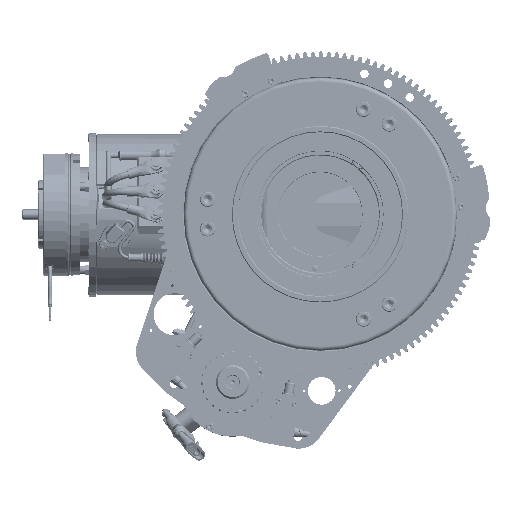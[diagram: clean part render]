
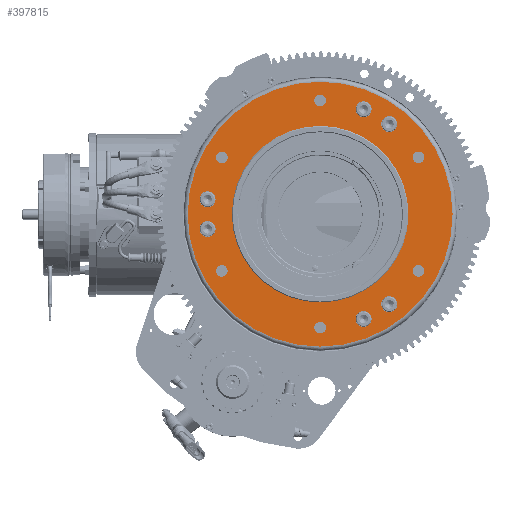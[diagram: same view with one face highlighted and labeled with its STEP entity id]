
A CAD part, top view. The second image highlights one B-rep face of the part: STEP entity #397815.
In plain terms, the highlighted planar face has unit normal (0, 0, 1).
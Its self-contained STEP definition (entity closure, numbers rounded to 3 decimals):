
#7699=FACE_BOUND('',#61770,.T.);
#7700=FACE_BOUND('',#61771,.T.);
#7701=FACE_BOUND('',#61772,.T.);
#7702=FACE_BOUND('',#61773,.T.);
#7703=FACE_BOUND('',#61774,.T.);
#7704=FACE_BOUND('',#61775,.T.);
#7705=FACE_BOUND('',#61776,.T.);
#7706=FACE_BOUND('',#61777,.T.);
#7707=FACE_BOUND('',#61778,.T.);
#7708=FACE_BOUND('',#61779,.T.);
#7709=FACE_BOUND('',#61780,.T.);
#7710=FACE_BOUND('',#61781,.T.);
#7711=FACE_BOUND('',#61782,.T.);
#19326=PLANE('',#430068);
#38778=FACE_OUTER_BOUND('',#61769,.T.);
#61769=EDGE_LOOP('',(#322013));
#61770=EDGE_LOOP('',(#322014));
#61771=EDGE_LOOP('',(#322015));
#61772=EDGE_LOOP('',(#322016));
#61773=EDGE_LOOP('',(#322017));
#61774=EDGE_LOOP('',(#322018));
#61775=EDGE_LOOP('',(#322019));
#61776=EDGE_LOOP('',(#322020));
#61777=EDGE_LOOP('',(#322021));
#61778=EDGE_LOOP('',(#322022));
#61779=EDGE_LOOP('',(#322023));
#61780=EDGE_LOOP('',(#322024));
#61781=EDGE_LOOP('',(#322025));
#61782=EDGE_LOOP('',(#322026));
#81715=CIRCLE('',#430069,157.5);
#81716=CIRCLE('',#430070,6.918);
#81717=CIRCLE('',#430071,6.918);
#81718=CIRCLE('',#430072,6.918);
#81719=CIRCLE('',#430073,6.918);
#81720=CIRCLE('',#430074,6.918);
#81721=CIRCLE('',#430075,6.918);
#81722=CIRCLE('',#430076,9.5);
#81723=CIRCLE('',#430077,9.5);
#81724=CIRCLE('',#430078,9.5);
#81725=CIRCLE('',#430079,9.5);
#81726=CIRCLE('',#430080,9.5);
#81727=CIRCLE('',#430081,9.5);
#81728=CIRCLE('',#430082,105.);
#183456=VERTEX_POINT('',#718199);
#183457=VERTEX_POINT('',#718201);
#183458=VERTEX_POINT('',#718203);
#183459=VERTEX_POINT('',#718205);
#183460=VERTEX_POINT('',#718207);
#183461=VERTEX_POINT('',#718209);
#183462=VERTEX_POINT('',#718211);
#183463=VERTEX_POINT('',#718213);
#183464=VERTEX_POINT('',#718215);
#183465=VERTEX_POINT('',#718217);
#183466=VERTEX_POINT('',#718219);
#183467=VERTEX_POINT('',#718221);
#183468=VERTEX_POINT('',#718223);
#183469=VERTEX_POINT('',#718225);
#232426=EDGE_CURVE('',#183456,#183456,#81715,.T.);
#232427=EDGE_CURVE('',#183457,#183457,#81716,.T.);
#232428=EDGE_CURVE('',#183458,#183458,#81717,.T.);
#232429=EDGE_CURVE('',#183459,#183459,#81718,.T.);
#232430=EDGE_CURVE('',#183460,#183460,#81719,.T.);
#232431=EDGE_CURVE('',#183461,#183461,#81720,.T.);
#232432=EDGE_CURVE('',#183462,#183462,#81721,.T.);
#232433=EDGE_CURVE('',#183463,#183463,#81722,.T.);
#232434=EDGE_CURVE('',#183464,#183464,#81723,.T.);
#232435=EDGE_CURVE('',#183465,#183465,#81724,.T.);
#232436=EDGE_CURVE('',#183466,#183466,#81725,.T.);
#232437=EDGE_CURVE('',#183467,#183467,#81726,.T.);
#232438=EDGE_CURVE('',#183468,#183468,#81727,.T.);
#232439=EDGE_CURVE('',#183469,#183469,#81728,.T.);
#322013=ORIENTED_EDGE('',*,*,#232426,.F.);
#322014=ORIENTED_EDGE('',*,*,#232427,.T.);
#322015=ORIENTED_EDGE('',*,*,#232428,.T.);
#322016=ORIENTED_EDGE('',*,*,#232429,.T.);
#322017=ORIENTED_EDGE('',*,*,#232430,.T.);
#322018=ORIENTED_EDGE('',*,*,#232431,.T.);
#322019=ORIENTED_EDGE('',*,*,#232432,.T.);
#322020=ORIENTED_EDGE('',*,*,#232433,.T.);
#322021=ORIENTED_EDGE('',*,*,#232434,.T.);
#322022=ORIENTED_EDGE('',*,*,#232435,.T.);
#322023=ORIENTED_EDGE('',*,*,#232436,.T.);
#322024=ORIENTED_EDGE('',*,*,#232437,.T.);
#322025=ORIENTED_EDGE('',*,*,#232438,.T.);
#322026=ORIENTED_EDGE('',*,*,#232439,.T.);
#397815=ADVANCED_FACE('',(#38778,#7699,#7700,#7701,#7702,#7703,#7704,#7705,
#7706,#7707,#7708,#7709,#7710,#7711),#19326,.T.);
#430068=AXIS2_PLACEMENT_3D('',#718198,#515768,#515769);
#430069=AXIS2_PLACEMENT_3D('',#718200,#515770,#515771);
#430070=AXIS2_PLACEMENT_3D('',#718202,#515772,#515773);
#430071=AXIS2_PLACEMENT_3D('',#718204,#515774,#515775);
#430072=AXIS2_PLACEMENT_3D('',#718206,#515776,#515777);
#430073=AXIS2_PLACEMENT_3D('',#718208,#515778,#515779);
#430074=AXIS2_PLACEMENT_3D('',#718210,#515780,#515781);
#430075=AXIS2_PLACEMENT_3D('',#718212,#515782,#515783);
#430076=AXIS2_PLACEMENT_3D('',#718214,#515784,#515785);
#430077=AXIS2_PLACEMENT_3D('',#718216,#515786,#515787);
#430078=AXIS2_PLACEMENT_3D('',#718218,#515788,#515789);
#430079=AXIS2_PLACEMENT_3D('',#718220,#515790,#515791);
#430080=AXIS2_PLACEMENT_3D('',#718222,#515792,#515793);
#430081=AXIS2_PLACEMENT_3D('',#718224,#515794,#515795);
#430082=AXIS2_PLACEMENT_3D('',#718226,#515796,#515797);
#515768=DIRECTION('center_axis',(0.,0.,
1.));
#515769=DIRECTION('ref_axis',(0.,-1.,0.));
#515770=DIRECTION('center_axis',(0.,0.,
-1.));
#515771=DIRECTION('ref_axis',(-1.,0.,0.));
#515772=DIRECTION('center_axis',(0.,0.,
-1.));
#515773=DIRECTION('ref_axis',(-0.5,0.866,0.));
#515774=DIRECTION('center_axis',(0.,0.,
-1.));
#515775=DIRECTION('ref_axis',(-1.,0.,0.));
#515776=DIRECTION('center_axis',(0.,0.,
-1.));
#515777=DIRECTION('ref_axis',(-0.5,-0.866,0.));
#515778=DIRECTION('center_axis',(0.,0.,
-1.));
#515779=DIRECTION('ref_axis',(0.5,-0.866,0.));
#515780=DIRECTION('center_axis',(0.,0.,
-1.));
#515781=DIRECTION('ref_axis',(0.5,0.866,0.));
#515782=DIRECTION('center_axis',(0.,0.,
-1.));
#515783=DIRECTION('ref_axis',(1.,0.,0.));
#515784=DIRECTION('center_axis',(0.,0.,
-1.));
#515785=DIRECTION('ref_axis',(-0.5,0.866,0.));
#515786=DIRECTION('center_axis',(0.,0.,
-1.));
#515787=DIRECTION('ref_axis',(-0.5,-0.866,0.));
#515788=DIRECTION('center_axis',(0.,0.,
-1.));
#515789=DIRECTION('ref_axis',(-0.5,-0.866,0.));
#515790=DIRECTION('center_axis',(0.,0.,
-1.));
#515791=DIRECTION('ref_axis',(-0.5,0.866,0.));
#515792=DIRECTION('center_axis',(0.,0.,
-1.));
#515793=DIRECTION('ref_axis',(1.,0.,0.));
#515794=DIRECTION('center_axis',(0.,0.,
-1.));
#515795=DIRECTION('ref_axis',(1.,0.,0.));
#515796=DIRECTION('center_axis',(0.,0.,
-1.));
#515797=DIRECTION('ref_axis',(1.,0.,0.));
#718198=CARTESIAN_POINT('Origin',(200.75,0.,248.5));
#718199=CARTESIAN_POINT('',(67.,-157.5,248.5));
#718200=CARTESIAN_POINT('Origin',(67.,0.,
248.5));
#718201=CARTESIAN_POINT('',(70.459,129.009,248.5));
#718202=CARTESIAN_POINT('Origin',(67.,135.,248.5));
#718203=CARTESIAN_POINT('',(-42.996,67.5,248.5));
#718204=CARTESIAN_POINT('Origin',(-49.913,67.5,248.5));
#718205=CARTESIAN_POINT('',(-46.455,-61.509,248.5));
#718206=CARTESIAN_POINT('Origin',(-49.913,-67.5,248.5));
#718207=CARTESIAN_POINT('',(63.541,-129.009,248.5));
#718208=CARTESIAN_POINT('Origin',(67.,-135.,248.5));
#718209=CARTESIAN_POINT('',(180.455,61.509,248.5));
#718210=CARTESIAN_POINT('Origin',(183.913,67.5,248.5));
#718211=CARTESIAN_POINT('',(176.996,-67.5,248.5));
#718212=CARTESIAN_POINT('Origin',(183.913,-67.5,248.5));
#718213=CARTESIAN_POINT('',(153.933,-115.33,248.5));
#718214=CARTESIAN_POINT('Origin',(149.183,-107.103,248.5));
#718215=CARTESIAN_POINT('',(123.412,132.951,248.5));
#718216=CARTESIAN_POINT('Origin',(118.662,124.724,248.5));
#718217=CARTESIAN_POINT('',(153.933,115.33,248.5));
#718218=CARTESIAN_POINT('Origin',(149.183,107.103,248.5));
#718219=CARTESIAN_POINT('',(123.412,-132.951,248.5));
#718220=CARTESIAN_POINT('Origin',(118.662,-124.724,248.5));
#718221=CARTESIAN_POINT('',(-76.345,-17.621,248.5));
#718222=CARTESIAN_POINT('Origin',(-66.845,-17.621,248.5));
#718223=CARTESIAN_POINT('',(-76.345,17.621,248.5));
#718224=CARTESIAN_POINT('Origin',(-66.845,17.621,248.5));
#718225=CARTESIAN_POINT('',(-38.,0.,248.5));
#718226=CARTESIAN_POINT('Origin',(67.,0.,
248.5));
